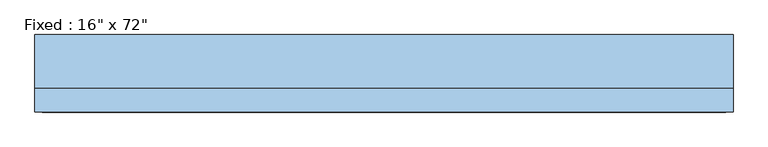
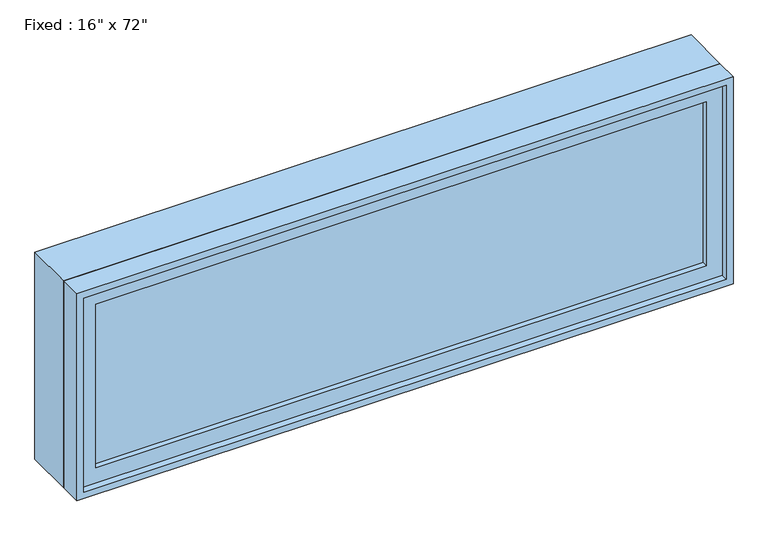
"""IFC4 building model written with IfcOpenShell, lengths in millimetres: window geometry."""

from ifc_helpers import new_model, si_unit, frame, origin, place, context, project, spatial, polyline, outline, extrude, source, transform, mapped, element, save


def window_85e9c171(model_context):
    return source(origin(), model_context, "Body", "SweptSolid", [
        extrude(outline(polyline([(812.8, -53.975), (812.8, -66.675), (-889.0, -66.675), (-889.0, -53.975), (812.8, -53.975)])), frame((0.0, 0.0, 368.3), z_axis=(0.0, 0.0, 1.0), x_axis=(1.0, 0.0, 0.0)), (0.0, 0.0, 1.0), 482.6),
        extrude(outline(polyline([(895.35, -933.45), (323.85, -933.45), (323.85, 857.25), (895.35, 857.25), (895.35, -933.45)]), holes=[polyline([(850.9, -889.0), (850.9, 812.8), (368.3, 812.8), (368.3, -889.0), (850.9, -889.0)])]), frame((0.0, -82.55, 0.0), z_axis=(0.0, 1.0, 0.0), x_axis=(0.0, 0.0, 1.0)), (0.0, 0.0, 1.0), 44.45),
        extrude(outline(polyline([(914.4, -952.5), (304.8, -952.5), (304.8, 876.3), (914.4, 876.3), (914.4, -952.5)]), holes=[polyline([(882.65, -920.75), (882.65, 844.55), (336.55, 844.55), (336.55, -920.75), (882.65, -920.75)])]), frame((0.0, -38.1, 0.0), z_axis=(0.0, 1.0, 0.0), x_axis=(0.0, 0.0, 1.0)), (0.0, 0.0, 1.0), 139.7),
        extrude(outline(polyline([(914.4, 876.3), (914.4, -952.5), (304.8, -952.5), (304.8, 876.3), (914.4, 876.3)]), holes=[polyline([(895.35, 857.25), (323.85, 857.25), (323.85, -933.45), (895.35, -933.45), (895.35, 857.25)])]), frame((0.0, -101.6, 0.0), z_axis=(0.0, 1.0, 0.0), x_axis=(0.0, 0.0, 1.0)), (0.0, 0.0, 1.0), 63.5),
    ])


if __name__ == "__main__":
    model = new_model("IFC4")
    model_context = context("Model", 3, world=origin())
    ifc_project = project(units=[si_unit("LENGTHUNIT", "METRE", prefix="MILLI")], contexts=[model_context])
    site = spatial("IfcSite", under=ifc_project)
    building = spatial("IfcBuilding", under=site)
    placement = place(None, origin())
    window_shape = window_85e9c171(model_context)
    element("IfcWindow", 1, ObjectType="Fixed : 16\" x 72\"", at=placement, inside=building, context=model_context, shape_type="MappedRepresentation", body=[
        mapped(window_shape, transform((0.0, 0.0, 0.0), x_axis=(1.0, 0.0, 0.0), y_axis=(0.0, 1.0, 0.0), z_axis=(0.0, 0.0, 1.0))),
    ])
    save(model, "model.ifc")
